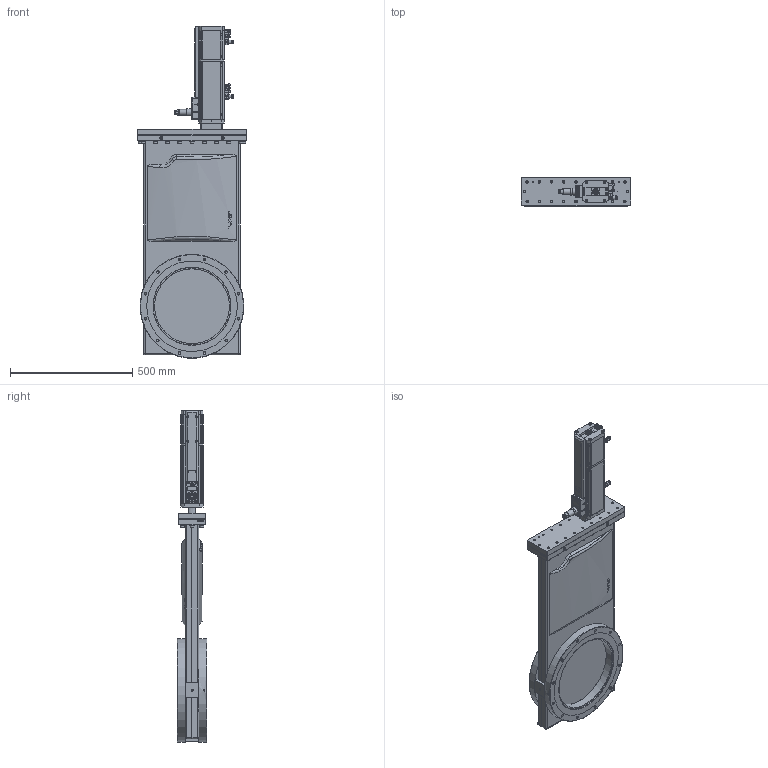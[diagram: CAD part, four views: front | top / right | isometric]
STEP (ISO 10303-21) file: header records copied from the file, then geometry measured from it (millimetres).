
FILE_DESCRIPTION(/* description */ (''),/* implementation_level */ '2;1');
FILE_NAME(/* name */ '1631855488_203.stp',/* time_stamp */ '2015-02-05T12:35:57+01:00',/* author */ (''),/* organization */ (''),/* preprocessor_version */ 'ST-DEVELOPER v11',/* originating_system */ 'SIEMENS PLM Software NX 7.5',/* authorisation */ '');
FILE_SCHEMA (('AP203_CONFIGURATION_CONTROLLED_3D_DESIGN_OF_MECHANICAL_PARTS_AND_ASSEMBLIES_MIM_LF'));
Products named in the file (52): n-6005-535.1_21841ID; 65664-01.2_21825ID; 467882; 437235; 65664-01.2_21269ID; 457464_21278ID; 457464_21268ID; 386293_21277ID; N-6005-437.1; N-6005-477.1; N-6005-473.1; 72979-01.1; 72846-01.1; 495271; 73692-01.1; 495253; 70738-01.1; 73691-01.1; 495255; 87609-01.1; N-7557-016_1.1; N-7557-018.1; N-7557-016_2.1; N-6024-524.1; N-5018-005.1; 70973-01.1; 464926; n-8504-002; N-6024-548.1; 87172-01.1; 74628-01.3; 65313-01.1; 86824-01.2; 86827-01.3_21862ID; 86827-01.3_53717ID; 86831.2; 752549; n-6134-410; 218206.1; 752564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
Assembly tree (114 placements, depth 4):
  496212
    86830-r1_MODEL
      386313_MODEL
        386293_21277ID
        457464_21268ID
        457464_21278ID
      86831.2  x3
      86827-01.3_53717ID
      86827-01.3_21862ID
    752520_NX-ARRAGMNTMASSBILD
      86824-01.2
      65313-01.1
      74628-01.3
    752564
    94239-r1.5
      87172-01.1  x4
      94226-01.2
        65664-01.2_21269ID
    772120_MODEL
      N-6024-548.1  x4
      n-8504-002
      464926
      70973-01.1
    94800-r1.7_NX-ARRAGMNTKONFIG1  x2
      N-5018-005.1
      N-6024-524.1
      N-7557-016_2.1
      N-7557-018.1
      N-7557-016_1.1
      N-7557-016_3.1_MODELNX-ARRAGMNTArrangement 1
        437235
        467882
    218206.1  x20
    n-6134-410  x20
    752549
    495275
      87609-01.1  x4
      495255
      73691-01.1
      70738-01.1
      495253
      73692-01.1
      495271
      72846-01.1
      72979-01.1
      N-6005-473.1  x2
      N-6005-477.1  x4
      N-6005-437.1  x4
      94313-01.2
        65664-01.2_21825ID
      87606-01.1
        n-6005-535.1_21841ID
Bounding box: 448 x 120 x 1357.77 mm (x, y, z)
Volume: 14096947.1 mm3; surface area: 2963156.2 mm2
Topology: 178 solids, 178 shells, 3448 faces, 8292 edges, 5406 vertices
Faces by surface type: plane 2047, cylinder 864, cone 218, torus 118, extrusion 117, bspline 46, sphere 38
Full cylindrical faces by diameter (mm): 0.4 x1, 1.2 x1, 1.66 x7, 2 x1, 2.125 x1, 2.5 x10, 2.65 x1, 3 x20, 3.2 x4, 3.26 x4, 3.3 x14, 3.4 x8, 3.5 x6, 4 x16, 4.2 x5, 4.22 x2, 4.3 x6, 4.35 x2, 4.4 x8, 4.45 x4, 4.5 x2, 4.6 x2, 4.96 x6, 5 x20, 5.2 x4, 5.5 x2, 5.9 x1, 5.99 x2, 6 x37, 6.25 x2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
Entity records: 80134 total; most frequent: CARTESIAN_POINT 19184, ORIENTED_EDGE 9524, DIRECTION 9438, EDGE_CURVE 4762, AXIS2_PLACEMENT_3D 3555, VERTEX_POINT 3402, EDGE_LOOP 3010, VECTOR 2328
